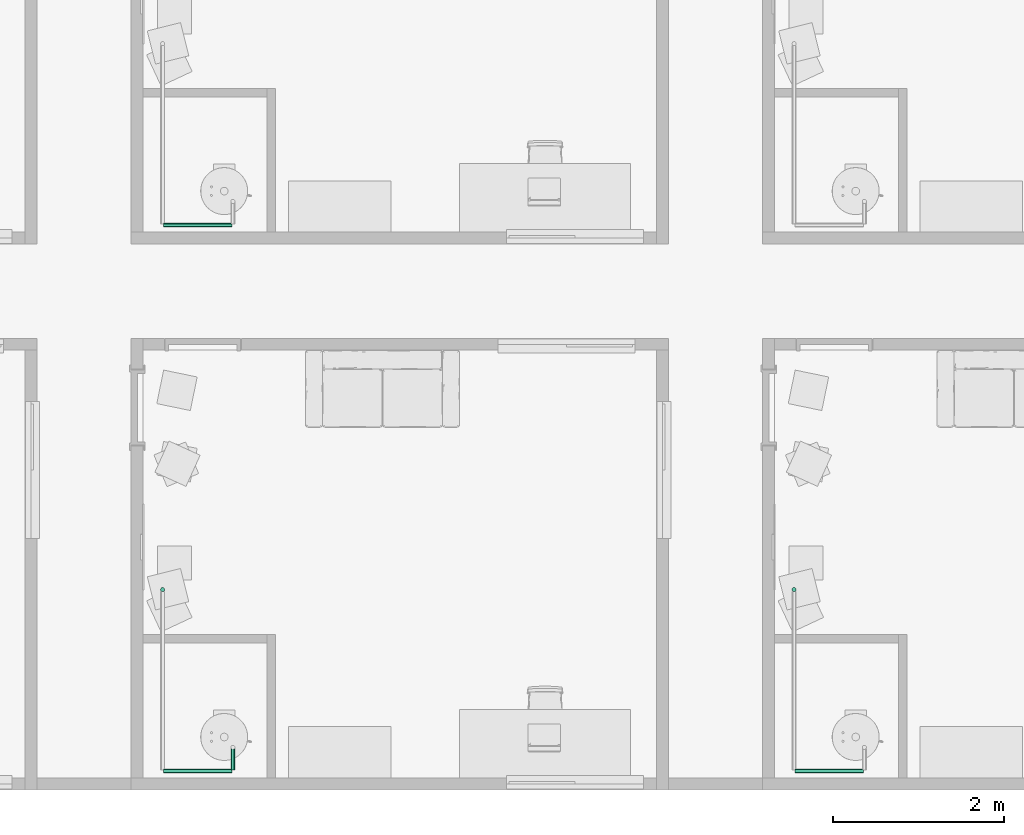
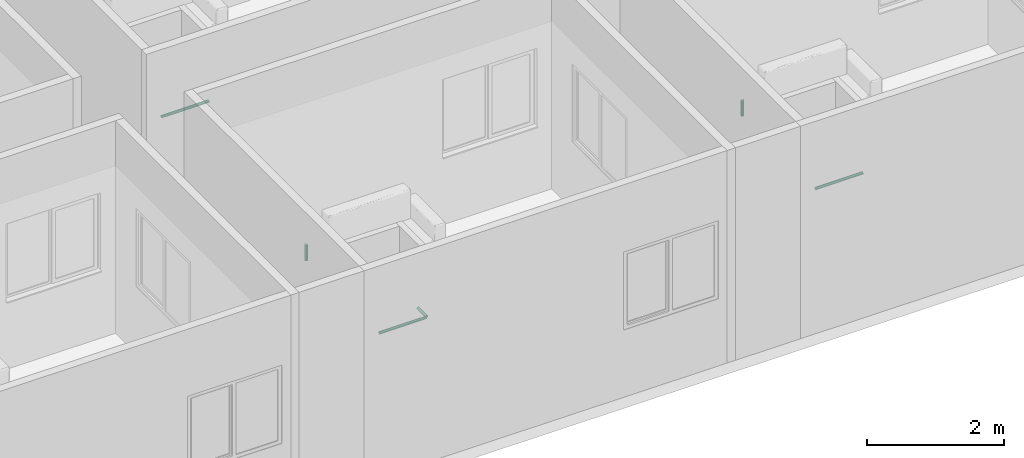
# One storey, part 42 of 71: 6 pipe segments.
"""IFC4 building model written with IfcOpenShell, lengths in centimetres."""

import ifcopenshell
import ifcopenshell.guid

model = None  # the IFC model being written
_history = None  # IfcOwnerHistory: only IFC2X3 demands one
_inside = {}  # id of a spatial element -> (the spatial element, [elements in it])
_under = {}  # id of a project, library or spatial element -> (it, [spatial elements below it])
_declared = {}  # id of a project -> (the project, [libraries it declares])
_typed = {}  # id of a type object -> (the type object, [elements of that type])
_made_of = {}  # id of a material, layer set ... -> (it, [elements and type objects made of it])


def new_model(schema):
    """Start an empty IFC model of exactly this schema.

    Asked for "IFC4X3", IfcOpenShell would pick the latest addendum, in which some entities
    have other attributes; the version numbers below select the first issue.
    IFC2X3 requires an IfcOwnerHistory on every rooted entity: one is made here for all.
    """
    global model, _history
    if schema == "IFC4X3":
        model = ifcopenshell.file(schema_version=(4, 3, 0, 0))
    else:
        model = ifcopenshell.file(schema=schema)
    _inside.clear()
    _under.clear()
    _declared.clear()
    _typed.clear()
    _made_of.clear()
    _history = None
    if model.schema == "IFC2X3":
        org = make("IfcOrganization", Name="unknown")
        user = make(
            "IfcPersonAndOrganization",
            ThePerson=make("IfcPerson", FamilyName="unknown"),
            TheOrganization=org,
        )
        app = make(
            "IfcApplication",
            ApplicationDeveloper=org,
            Version="unknown",
            ApplicationFullName="unknown",
            ApplicationIdentifier="unknown",
        )
        _history = make(
            "IfcOwnerHistory",
            OwningUser=user,
            OwningApplication=app,
            ChangeAction="ADDED",
            CreationDate=0,
        )
    return model


def make(cls, **values):
    """One entity of the class cls with the attributes given. An attribute that is None is left unset."""
    return model.create_entity(
        cls, **{name: value for name, value in values.items() if value is not None}
    )


def entity(cls, *values):
    """Any entity or typed value of the class cls, its attributes in the order of the schema. None: left unset."""
    e = model.create_entity(cls)
    for i, value in enumerate(values):
        if value is not None:
            e[i] = value
    return e


def rooted(cls, **values):
    """An entity with a GlobalId (a new one), such as an element, a storey or a relation."""
    return make(cls, GlobalId=ifcopenshell.guid.new(), OwnerHistory=_history, **values)


def si_unit(unit_type, name, prefix=None):
    """IfcSIUnit, for example si_unit("LENGTHUNIT", "METRE", prefix="MILLI")."""
    return make("IfcSIUnit", UnitType=unit_type, Prefix=prefix, Name=name)


def converted_unit(unit_type, name, factor, base, dimensions=None, offset=None):
    """IfcConversionBasedUnit, such as the inch: factor (a typed value) times the base unit."""
    return make(
        "IfcConversionBasedUnit"
        if offset is None
        else "IfcConversionBasedUnitWithOffset",
        ConversionOffset=offset,
        Dimensions=None
        if dimensions is None
        else entity("IfcDimensionalExponents", *dimensions),
        UnitType=unit_type,
        Name=name,
        ConversionFactor=make(
            "IfcMeasureWithUnit", ValueComponent=factor, UnitComponent=base
        ),
    )


def derived_unit(unit_type, elements):
    """IfcDerivedUnit: a product of units, each with its exponent."""
    return make(
        "IfcDerivedUnit",
        Elements=[
            make("IfcDerivedUnitElement", Unit=unit, Exponent=power)
            for unit, power in elements
        ],
        UnitType=unit_type,
    )


def assignment(units):
    """IfcUnitAssignment: the units of a project."""
    return None if units is None else make("IfcUnitAssignment", Units=units)


def point(xyz):
    """IfcCartesianPoint."""
    return None if xyz is None else make("IfcCartesianPoint", Coordinates=xyz)


def direction(xyz):
    """IfcDirection."""
    return None if xyz is None else make("IfcDirection", DirectionRatios=xyz)


def frame(location, z_axis=None, x_axis=None):
    """IfcAxis2Placement3D, a coordinate frame: its origin and axes. An axis left out is left unset."""
    return make(
        "IfcAxis2Placement3D",
        Location=point(location),
        Axis=direction(z_axis),
        RefDirection=direction(x_axis),
    )


def origin():
    """The frame at (0, 0, 0) with its axes left unset."""
    return frame((0.0, 0.0, 0.0))


def place(relative_to, where):
    """IfcLocalPlacement: puts the frame where relative to a parent placement (None: the world)."""
    return make(
        "IfcLocalPlacement", PlacementRelTo=relative_to, RelativePlacement=where
    )


def context(
    kind, dimensions, precision=None, world=None, true_north=None, identifier=None
):
    """IfcGeometricRepresentationContext, for example the 3D "Model" context."""
    return make(
        "IfcGeometricRepresentationContext",
        ContextIdentifier=identifier,
        ContextType=kind,
        CoordinateSpaceDimension=dimensions,
        Precision=precision,
        WorldCoordinateSystem=world,
        TrueNorth=true_north,
    )


def subcontext(parent, identifier, kind, view, scale=None):
    """IfcGeometricRepresentationSubContext, for example "Body" below "Model"."""
    return make(
        "IfcGeometricRepresentationSubContext",
        ContextIdentifier=identifier,
        ContextType=kind,
        ParentContext=parent,
        TargetScale=scale,
        TargetView=view,
    )


def project(units=None, contexts=None):
    """IfcProject with its units and contexts."""
    return rooted(
        "IfcProject",
        Name="project",
        RepresentationContexts=contexts,
        UnitsInContext=assignment(units),
    )


def spatial(cls, under=None, at=None, **own):
    """A site, building, storey or space (cls), placed at a placement, below another one or the project."""
    s = rooted(cls, ObjectPlacement=at, **own)
    if under is not None:
        _under.setdefault(under.id(), (under, []))[1].append(s)
    return s


def point_list(points):
    """IfcCartesianPointList2D or 3D."""
    cls = (
        "IfcCartesianPointList2D" if len(points[0]) == 2 else "IfcCartesianPointList3D"
    )
    return make(cls, CoordList=points)


def arc(*indices):
    """IfcArcIndex: an arc through three numbered points of an indexed curve."""
    return model.create_entity("IfcArcIndex", indices)


def indexed_curve(points, segments=None, self_intersect=None):
    """IfcIndexedPolyCurve: lines and arcs through numbered points (the first is 1)."""
    return make(
        "IfcIndexedPolyCurve",
        Points=point_list(points),
        Segments=segments,
        SelfIntersect=self_intersect,
    )


def outline(outer, holes=None, kind="AREA"):
    """IfcArbitraryClosedProfileDef: a profile drawn as a closed curve; with holes, ...WithVoids."""
    if holes is None:
        return make("IfcArbitraryClosedProfileDef", ProfileType=kind, OuterCurve=outer)
    return make(
        "IfcArbitraryProfileDefWithVoids",
        ProfileType=kind,
        OuterCurve=outer,
        InnerCurves=holes,
    )


def extrude(swept, where, along, depth):
    """IfcExtrudedAreaSolid: the profile swept, set in the frame where, extruded along a direction by depth."""
    return make(
        "IfcExtrudedAreaSolid",
        SweptArea=swept,
        Position=where,
        ExtrudedDirection=direction(along),
        Depth=depth,
    )


def shape(context_of_items, identifier, shape_type, items):
    """IfcShapeRepresentation: the items that make up one representation, for example the "Body"."""
    return make(
        "IfcShapeRepresentation",
        ContextOfItems=context_of_items,
        RepresentationIdentifier=identifier,
        RepresentationType=shape_type,
        Items=items,
    )


def made_of(thing, what):
    """Note that an element or type object is made of a material, layer set ...; save() writes the relation."""
    if what is not None:
        _made_of.setdefault(what.id(), (what, []))[1].append(thing)
    return thing


def type_object(cls, material=None, **own):
    """A type object (cls), such as IfcWallType, which elements share."""
    return made_of(rooted(cls, **own), material)


def element(
    cls,
    number,
    at=None,
    inside=None,
    cuts=None,
    type_object=None,
    material=None,
    context=None,
    identifier="Body",
    shape_type=None,
    held_by="IfcProductDefinitionShape",
    body=None,
    shapes=None,
    **own,
):
    """One element of the class cls, such as IfcWall. Its Tag is "e" and its number.

    at: its placement. inside: the storey or other place that contains it. cuts: it is an
    opening in that element (IfcRelVoidsElement). A single representation is given by context,
    identifier, shape_type and body (its items); several are given by shapes. held_by: the class
    of the entity that holds the representations. save() writes the other relations.
    """
    e = rooted(cls, Tag="e%d" % number, ObjectPlacement=at, **own)
    if body is not None:
        shapes = [shape(context, identifier, shape_type, body)]
    if shapes is not None:
        e.Representation = make(held_by, Representations=shapes)
    if inside is not None:
        _inside.setdefault(inside.id(), (inside, []))[1].append(e)
    if cuts is not None:
        rooted(
            "IfcRelVoidsElement", RelatingBuildingElement=cuts, RelatedOpeningElement=e
        )
    if type_object is not None:
        _typed.setdefault(type_object.id(), (type_object, []))[1].append(e)
    return made_of(e, material)


def aggregate(whole, parts):
    """IfcRelAggregates: a whole, such as a stair, and the parts it consists of."""
    return rooted("IfcRelAggregates", RelatingObject=whole, RelatedObjects=parts)


def save(model, path):
    """Write the relations noted so far, then the file.

    IfcRelAggregates (storeys below a building ...), IfcRelContainedInSpatialStructure (elements
    in a storey), IfcRelDefinesByType, IfcRelAssociatesMaterial and IfcRelDeclares: one each for
    every whole, place, type object, material and project.
    """
    for whole, parts in _under.values():
        aggregate(whole, parts)
    for where, things in _inside.values():
        rooted(
            "IfcRelContainedInSpatialStructure",
            RelatedElements=things,
            RelatingStructure=where,
        )
    for kind, things in _typed.values():
        rooted("IfcRelDefinesByType", RelatedObjects=things, RelatingType=kind)
    for what, things in _made_of.values():
        rooted("IfcRelAssociatesMaterial", RelatedObjects=things, RelatingMaterial=what)
    for by, libraries in _declared.values():
        rooted("IfcRelDeclares", RelatingContext=by, RelatedDefinitions=libraries)
    model.write(path)


model = new_model("IFC4")

# Units and contexts
model_context = context("Model", 3, precision=0.001, world=origin(), true_north=direction((6.123233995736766e-17, 1.0)))
body_context = subcontext(model_context, "Body", "Model", "MODEL_VIEW")
ifc_project = project(units=[si_unit("LENGTHUNIT", "METRE", prefix="CENTI"), si_unit("AREAUNIT", "SQUARE_METRE"), si_unit("VOLUMEUNIT", "CUBIC_METRE"), derived_unit("THERMALTRANSMITTANCEUNIT", [(si_unit("MASSUNIT", "GRAM", prefix="KILO"), 1), (si_unit("THERMODYNAMICTEMPERATUREUNIT", "KELVIN"), -1), (si_unit("TIMEUNIT", "SECOND"), -3)]), converted_unit("PLANEANGLEUNIT", "DEGREE", entity("IfcPlaneAngleMeasure", 0.017453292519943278), si_unit("PLANEANGLEUNIT", "RADIAN"), dimensions=[0, 0, 0, 0, 0, 0, 0]), derived_unit("MASSDENSITYUNIT", [(si_unit("MASSUNIT", "GRAM", prefix="KILO"), 1), (si_unit("LENGTHUNIT", "METRE"), -3)]), derived_unit("VAPORPERMEABILITYUNIT", [(si_unit("LENGTHUNIT", "METRE"), -1), (si_unit("TIMEUNIT", "SECOND"), 1)]), derived_unit("USERDEFINED", [(si_unit("MASSUNIT", "GRAM", prefix="KILO"), 1), (si_unit("TIMEUNIT", "SECOND"), -3), (si_unit("LENGTHUNIT", "METRE"), 3), (si_unit("ELECTRICCURRENTUNIT", "AMPERE"), -2)]), derived_unit("SPECIFICHEATCAPACITYUNIT", [(si_unit("THERMODYNAMICTEMPERATUREUNIT", "KELVIN"), -1), (si_unit("LENGTHUNIT", "METRE"), 2), (si_unit("TIMEUNIT", "SECOND"), -2)]), derived_unit("THERMALCONDUCTANCEUNIT", [(si_unit("MASSUNIT", "GRAM", prefix="KILO"), 1), (si_unit("THERMODYNAMICTEMPERATUREUNIT", "KELVIN"), -1), (si_unit("TIMEUNIT", "SECOND"), -3), (si_unit("LENGTHUNIT", "METRE"), 1)]), si_unit("PRESSUREUNIT", "PASCAL"), derived_unit("MODULUSOFELASTICITYUNIT", [(si_unit("MASSUNIT", "GRAM", prefix="KILO"), 1), (si_unit("LENGTHUNIT", "METRE"), -1), (si_unit("TIMEUNIT", "SECOND"), -2)]), derived_unit("THERMALEXPANSIONCOEFFICIENTUNIT", [(si_unit("THERMODYNAMICTEMPERATUREUNIT", "KELVIN"), -1)])], contexts=[model_context])

# Site, building, storey
site_placement = place(None, origin())
site = spatial("IfcSite", under=ifc_project, at=site_placement, Name="Default", CompositionType="ELEMENT")
building_placement = place(site_placement, origin())
building = spatial("IfcBuilding", under=site, at=building_placement, Name="IDS Escape Game Building", CompositionType="ELEMENT")
storey_placement = place(building_placement, frame((0.0, 0.0, 400.0)))
storey = spatial("IfcBuildingStorey", under=building, at=storey_placement, Name="01_First Floor", CompositionType="ELEMENT", Elevation=399.99999999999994)

# Pipe segments
pipe_segment_type = type_object("IfcPipeSegmentType", Name="Pipe Types:Piping Aluminum", PredefinedType="NOTDEFINED")
pipe_segment_1_placement = place(storey_placement, origin())
element("IfcPipeSegment", 1, at=pipe_segment_1_placement, inside=storey, type_object=pipe_segment_type, Name="Pipe Types:Piping Aluminum", ObjectType="Pipe Types:Piping Aluminum", PredefinedType="NOTDEFINED", context=body_context, shape_type="SweptSolid", body=[
    extrude(outline(indexed_curve([(2.412999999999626, -2.165734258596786e-13), (1.7062486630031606, 1.7062486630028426), (3.790034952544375e-13, 2.4130000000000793), (-1.7062486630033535, 1.706248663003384), (-2.4130000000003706, -2.165734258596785e-13), (-1.706248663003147, -1.706248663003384), (3.654676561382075e-13, -2.412999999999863), (1.7062486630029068, -1.7062486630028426)], segments=[arc(1, 2, 3), arc(3, 4, 5), arc(5, 6, 7), arc(7, 8, 1)], self_intersect=False)), frame((1507.1467168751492, 21.26482792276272, 242.0), z_axis=(1.0, 0.0, 0.0), x_axis=(0.0, 1.0, 0.0)), (0.0, 0.0, 1.0), 79.90328312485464),
])
pipe_segment_2_placement = place(storey_placement, origin())
element("IfcPipeSegment", 2, at=pipe_segment_2_placement, inside=storey, type_object=pipe_segment_type, Name="Pipe Types:Piping Aluminum", ObjectType="Pipe Types:Piping Aluminum", PredefinedType="NOTDEFINED", context=body_context, shape_type="SweptSolid", body=[
    extrude(outline(indexed_curve([(2.4129999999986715, 0.0), (1.7062486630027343, 1.706248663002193), (1.2994405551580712e-12, 2.412999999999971), (-1.7062486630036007, 1.7062486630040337), (-2.413000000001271, 0.0), (-1.7062486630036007, -1.7062486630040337), (1.2994405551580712e-12, -2.412999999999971), (1.7062486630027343, -1.706248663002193)], segments=[arc(1, 2, 3), arc(3, 4, 5), arc(5, 6, 7), arc(7, 8, 1)], self_intersect=False)), frame((1588.1500000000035, 22.36482792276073, 242.0), z_axis=(0.0, 1.0, 0.0), x_axis=(-1.0, 0.0, 0.0)), (0.0, 0.0, 1.0), 25.435172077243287),
])
pipe_segment_3_placement = place(storey_placement, origin())
element("IfcPipeSegment", 3, at=pipe_segment_3_placement, inside=storey, type_object=pipe_segment_type, Name="Pipe Types:Piping Aluminum", ObjectType="Pipe Types:Piping Aluminum", PredefinedType="NOTDEFINED", context=body_context, shape_type="SweptSolid", body=[
    extrude(outline(indexed_curve([(2.412999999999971, -2.7071678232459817e-14), (1.7062486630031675, 1.7062486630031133), (0.0, 2.412999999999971), (-1.7062486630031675, 1.7062486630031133), (-2.412999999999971, 0.0), (-1.7062486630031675, -1.7062486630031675), (0.0, -2.413000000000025), (1.7062486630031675, -1.7062486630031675)], segments=[arc(1, 2, 3), arc(3, 4, 5), arc(5, 6, 7), arc(7, 8, 1)], self_intersect=False)), frame((1506.0467168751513, 233.26482792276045, 244.09999999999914), z_axis=(0.0, 0.0, 1.0), x_axis=(-1.0, 0.0, 0.0)), (0.0, 0.0, 1.0), 27.900000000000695),
])
pipe_segment_4_placement = place(storey_placement, origin())
element("IfcPipeSegment", 4, at=pipe_segment_4_placement, inside=storey, type_object=pipe_segment_type, Name="Pipe Types:Piping Aluminum", ObjectType="Pipe Types:Piping Aluminum", PredefinedType="NOTDEFINED", context=body_context, shape_type="SweptSolid", body=[
    extrude(outline(indexed_curve([(2.412999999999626, -2.165734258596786e-13), (1.7062486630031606, 1.7062486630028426), (3.790034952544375e-13, 2.4130000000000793), (-1.7062486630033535, 1.706248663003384), (-2.4130000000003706, -2.165734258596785e-13), (-1.706248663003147, -1.706248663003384), (3.654676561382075e-13, -2.412999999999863), (1.7062486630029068, -1.7062486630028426)], segments=[arc(1, 2, 3), arc(3, 4, 5), arc(5, 6, 7), arc(7, 8, 1)], self_intersect=False)), frame((2245.1467168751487, 21.26482792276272, 242.0), z_axis=(1.0, 0.0, 0.0), x_axis=(0.0, 1.0, 0.0)), (0.0, 0.0, 1.0), 79.90328312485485),
])
pipe_segment_5_placement = place(storey_placement, origin())
element("IfcPipeSegment", 5, at=pipe_segment_5_placement, inside=storey, type_object=pipe_segment_type, Name="Pipe Types:Piping Aluminum", ObjectType="Pipe Types:Piping Aluminum", PredefinedType="NOTDEFINED", context=body_context, shape_type="SweptSolid", body=[
    extrude(outline(indexed_curve([(2.412999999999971, -2.7071678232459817e-14), (1.7062486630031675, 1.7062486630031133), (0.0, 2.412999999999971), (-1.7062486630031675, 1.7062486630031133), (-2.412999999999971, 0.0), (-1.7062486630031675, -1.7062486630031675), (0.0, -2.413000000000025), (1.7062486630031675, -1.7062486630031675)], segments=[arc(1, 2, 3), arc(3, 4, 5), arc(5, 6, 7), arc(7, 8, 1)], self_intersect=False)), frame((2244.046716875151, 233.26482792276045, 244.09999999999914), z_axis=(0.0, 0.0, 1.0), x_axis=(-1.0, 0.0, 0.0)), (0.0, 0.0, 1.0), 27.900000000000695),
])
pipe_segment_6_placement = place(storey_placement, origin())
element("IfcPipeSegment", 6, at=pipe_segment_6_placement, inside=storey, type_object=pipe_segment_type, Name="Pipe Types:Piping Aluminum", ObjectType="Pipe Types:Piping Aluminum", PredefinedType="NOTDEFINED", context=body_context, shape_type="SweptSolid", body=[
    extrude(outline(indexed_curve([(2.4129999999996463, -2.165734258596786e-13), (1.7062486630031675, 1.7062486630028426), (4.331468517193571e-13, 2.4130000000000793), (-1.7062486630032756, 1.706248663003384), (-2.413000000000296, -2.165734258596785e-13), (-1.706248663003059, -1.706248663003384), (4.3314685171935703e-13, -2.412999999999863), (1.7062486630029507, -1.7062486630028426)], segments=[arc(1, 2, 3), arc(3, 4, 5), arc(5, 6, 7), arc(7, 8, 1)], self_intersect=False)), frame((1507.1467168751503, 659.2648279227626, 242.0), z_axis=(1.0, 0.0, 0.0), x_axis=(0.0, 1.0, 0.0)), (0.0, 0.0, 1.0), 79.90328312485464),
])

save(model, "model.ifc")
